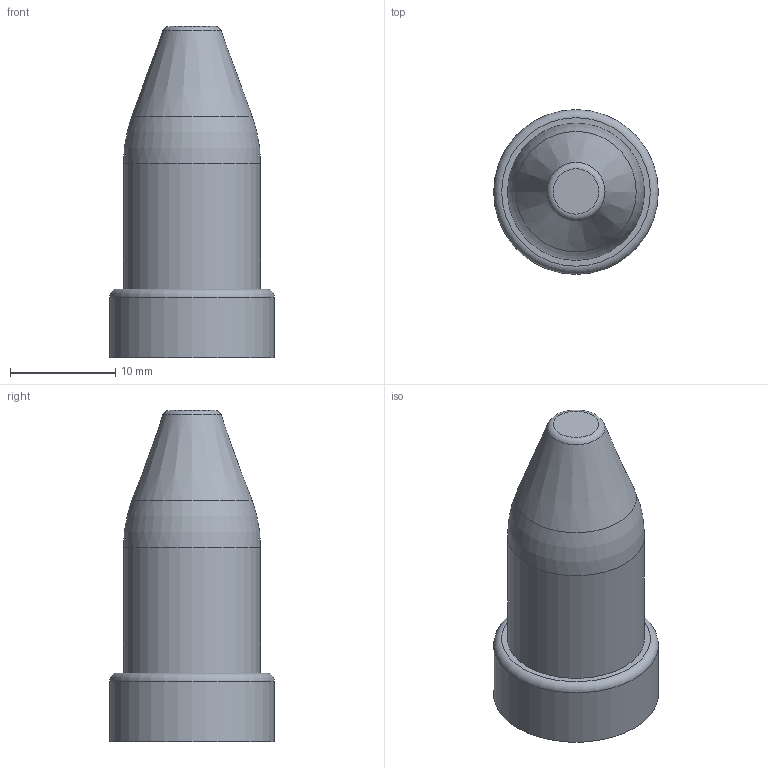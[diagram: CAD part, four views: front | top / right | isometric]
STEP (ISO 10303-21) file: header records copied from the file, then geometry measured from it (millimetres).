
FILE_DESCRIPTION (( 'STEP AP214' ), '1' );
FILE_NAME ('P-13mm-2.5mm-.625.STEP', '2023-11-07T11:16:32', ( '' ), ( '' ), 'SwSTEP 2.0', 'SolidWorks 2020', '' );
FILE_SCHEMA (( 'AUTOMOTIVE_DESIGN' ));
Length unit declared in the file: inch
Products named in the file (1): P-13mm-2.5mm-.625
Bounding box: 15.62 x 15.62 x 31.41 mm (x, y, z)
Volume: 3851.6 mm3; surface area: 1474.8 mm2
Topology: 1 solids, 1 shells, 9 faces, 14 edges, 8 vertices
Faces by surface type: plane 3, torus 3, cylinder 2, cone 1
Full cylindrical faces by diameter (mm): 13 x1, 15.621 x1
Entity records: 214 total; most frequent: DIRECTION 36, CARTESIAN_POINT 26, AXIS2_PLACEMENT_3D 18, EDGE_LOOP 16, ORIENTED_EDGE 16, FACE_OUTER_BOUND 14, ADVANCED_FACE 9, EDGE_CURVE 8
